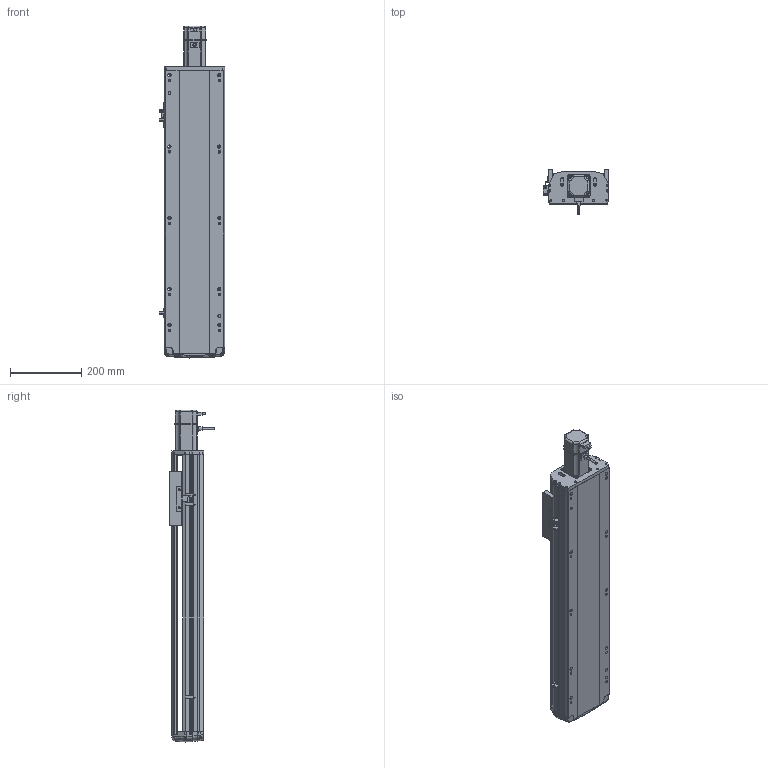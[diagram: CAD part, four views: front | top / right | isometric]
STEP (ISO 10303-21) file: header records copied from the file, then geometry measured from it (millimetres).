
FILE_DESCRIPTION (( 'STEP AP214' ), '1' );
FILE_NAME ('RTH17-XX-550-E-M40-C4（方程式）.STEP', '2025-10-24T05:41:12', ( '' ), ( '' ), 'SwSTEP 2.0', 'SolidWorks 2018', '' );
FILE_SCHEMA (( 'AUTOMOTIVE_DESIGN' ));
Length unit declared in the file: millimetre
Products named in the file (9): N_RTH17-E-007上盖^RTH17-XX-XX-E-M40-C4（方程式）; N_RTH17-E-004丝杆螺母连接座^RTH17-XX-XX-E-M40-C4（方程式）; N_RTH17-E-011底座^RTH17-XX-XX-E-M40-C4（方程式）; N_M40^RTH17-XX-XX-E-M40-C4（方程式）; N_OMRON EE-SX672 換覜ん^RTH17-XX-XX-E-M40-C4ㄗ源最宒ㄘ; RTH17-XX-550-E-M40-C4（方程式）; N_RTH17-GY-001P^RTH17-XX-XX-E-M40-C4（方程式）; N_RTH-BL-012 感应片(外置)^RTH17-XX-XX-E-M40-C4（方程式）; N_RTH17-E-008-P40电机板^RTH17-XX-XX-E-M40-C4（方程式）
Assembly tree (10 placements, depth 2):
  RTH17-XX-550-E-M40-C4（方程式）
    N_RTH17-E-011底座^RTH17-XX-XX-E-M40-C4（方程式）
    N_RTH17-E-007上盖^RTH17-XX-XX-E-M40-C4（方程式）
    N_RTH17-E-008-P40电机板^RTH17-XX-XX-E-M40-C4（方程式）
    N_OMRON EE-SX672 換覜ん^RTH17-XX-XX-E-M40-C4ㄗ源最宒ㄘ  x3
    N_RTH-BL-012 感应片(外置)^RTH17-XX-XX-E-M40-C4（方程式）
    N_RTH17-E-004丝杆螺母连接座^RTH17-XX-XX-E-M40-C4（方程式）
    N_RTH17-GY-001P^RTH17-XX-XX-E-M40-C4（方程式）
    N_M40^RTH17-XX-XX-E-M40-C4（方程式）
Bounding box: 183.5 x 127 x 930.69 mm (x, y, z)
Volume: 6724851.5 mm3; surface area: 920506.7 mm2
Topology: 9 solids, 11 shells, 1665 faces, 4657 edges, 3038 vertices
Faces by surface type: plane 827, cylinder 471, bspline 330, cone 28, torus 9
Entity records: 48797 total; most frequent: CARTESIAN_POINT 19524, ORIENTED_EDGE 6338, DIRECTION 5265, EDGE_CURVE 3173, VERTEX_POINT 2074, VECTOR 1777, LINE 1777, AXIS2_PLACEMENT_3D 1744
